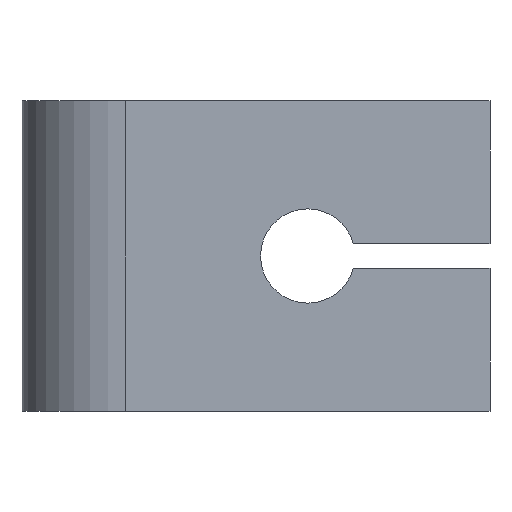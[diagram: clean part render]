
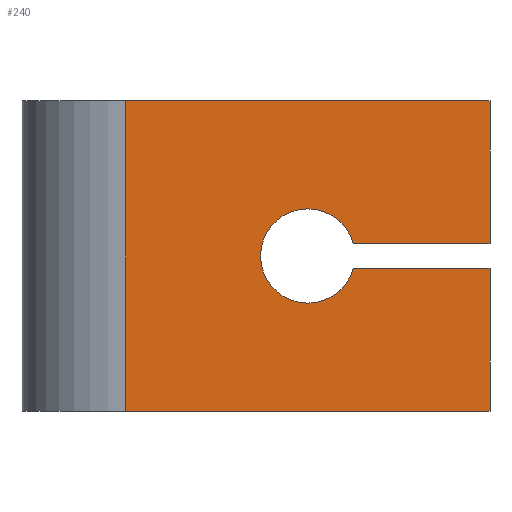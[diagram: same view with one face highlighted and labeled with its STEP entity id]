
A CAD part, left-side view. The second image highlights one B-rep face of the part: STEP entity #240.
In plain terms, the highlighted planar face has unit normal (-1, 0, 0).
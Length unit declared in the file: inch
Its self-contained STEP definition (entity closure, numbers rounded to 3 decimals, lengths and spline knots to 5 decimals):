
#8 = CARTESIAN_POINT ( 'NONE',  ( -1.82692, 0.66115, 0.4889 ) ) ;
#14 = CARTESIAN_POINT ( 'NONE',  ( -1.82692, 0.55128, 0.345 ) ) ;
#23 = DIRECTION ( 'NONE',  ( 0., -1., 0. ) ) ;
#28 = LINE ( 'NONE', #444, #359 ) ;
#36 = VERTEX_POINT ( 'NONE', #218 ) ;
#39 = VERTEX_POINT ( 'NONE', #158 ) ;
#41 = DIRECTION ( 'NONE',  ( 1., 0., 0. ) ) ;
#53 = VECTOR ( 'NONE', #70, 39.37008 ) ;
#55 = FACE_OUTER_BOUND ( 'NONE', #65, .T. ) ;
#59 = CARTESIAN_POINT ( 'NONE',  ( -1.82692, 0.22115, 0.345 ) ) ;
#65 = EDGE_LOOP ( 'NONE', ( #91, #590, #599, #423, #74, #251, #103, #232, #651, #327 ) ) ;
#70 = DIRECTION ( 'NONE',  ( 0., -1., 0. ) ) ;
#74 = ORIENTED_EDGE ( 'NONE', *, *, #178, .F. ) ;
#75 = DIRECTION ( 'NONE',  ( 1., 0., 0. ) ) ;
#77 = LINE ( 'NONE', #576, #489 ) ;
#84 = LINE ( 'NONE', #197, #53 ) ;
#91 = ORIENTED_EDGE ( 'NONE', *, *, #220, .T. ) ;
#101 = DIRECTION ( 'NONE',  ( 0., 0., -1. ) ) ;
#103 = ORIENTED_EDGE ( 'NONE', *, *, #201, .T. ) ;
#112 = DIRECTION ( 'NONE',  ( 0., 1., 0. ) ) ;
#128 = DIRECTION ( 'NONE',  ( 0., 1., 0. ) ) ;
#133 = DIRECTION ( 'NONE',  ( 1., 0., 0. ) ) ;
#147 = VECTOR ( 'NONE', #112, 39.37008 ) ;
#158 = CARTESIAN_POINT ( 'NONE',  ( -1.82692, 1.10115, 0.75 ) ) ;
#159 = VERTEX_POINT ( 'NONE', #225 ) ;
#160 = EDGE_CURVE ( 'NONE', #490, #471, #280, .T. ) ;
#178 = EDGE_CURVE ( 'NONE', #626, #329, #295, .T. ) ;
#197 = CARTESIAN_POINT ( 'NONE',  ( -1.82692, 1.10115, 0. ) ) ;
#201 = EDGE_CURVE ( 'NONE', #39, #36, #77, .T. ) ;
#218 = CARTESIAN_POINT ( 'NONE',  ( -1.82692, 1.10115, 0. ) ) ;
#220 = EDGE_CURVE ( 'NONE', #343, #490, #367, .T. ) ;
#225 = CARTESIAN_POINT ( 'NONE',  ( -1.82692, 0.22115, 0.345 ) ) ;
#232 = ORIENTED_EDGE ( 'NONE', *, *, #644, .T. ) ;
#235 = AXIS2_PLACEMENT_3D ( 'NONE', #642, #133, #272 ) ;
#240 = ADVANCED_FACE ( 'NONE', ( #55 ), #266, .F. ) ;
#251 = ORIENTED_EDGE ( 'NONE', *, *, #597, .F. ) ;
#266 = PLANE ( 'NONE',  #311 ) ;
#272 = DIRECTION ( 'NONE',  ( 0., 0., -1. ) ) ;
#279 = EDGE_CURVE ( 'NONE', #536, #329, #660, .T. ) ;
#280 = CIRCLE ( 'NONE', #235, 0.1139 ) ;
#285 = CARTESIAN_POINT ( 'NONE',  ( -1.82692, 0.22115, 0.75 ) ) ;
#295 = LINE ( 'NONE', #285, #460 ) ;
#301 = AXIS2_PLACEMENT_3D ( 'NONE', #331, #41, #101 ) ;
#311 = AXIS2_PLACEMENT_3D ( 'NONE', #616, #528, #128 ) ;
#317 = CARTESIAN_POINT ( 'NONE',  ( -1.82692, 0.66115, 0.375 ) ) ;
#327 = ORIENTED_EDGE ( 'NONE', *, *, #405, .T. ) ;
#329 = VERTEX_POINT ( 'NONE', #665 ) ;
#331 = CARTESIAN_POINT ( 'NONE',  ( -1.82692, 0.66115, 0.375 ) ) ;
#337 = DIRECTION ( 'NONE',  ( 0., 0., -1. ) ) ;
#343 = VERTEX_POINT ( 'NONE', #14 ) ;
#349 = AXIS2_PLACEMENT_3D ( 'NONE', #317, #75, #591 ) ;
#359 = VECTOR ( 'NONE', #513, 39.37008 ) ;
#367 = CIRCLE ( 'NONE', #301, 0.1139 ) ;
#405 = EDGE_CURVE ( 'NONE', #159, #343, #475, .T. ) ;
#423 = ORIENTED_EDGE ( 'NONE', *, *, #279, .T. ) ;
#444 = CARTESIAN_POINT ( 'NONE',  ( -1.82692, 0.22115, 0.75 ) ) ;
#456 = EDGE_CURVE ( 'NONE', #471, #536, #478, .T. ) ;
#460 = VECTOR ( 'NONE', #337, 39.37008 ) ;
#463 = EDGE_CURVE ( 'NONE', #159, #640, #28, .T. ) ;
#471 = VERTEX_POINT ( 'NONE', #8 ) ;
#473 = CARTESIAN_POINT ( 'NONE',  ( -1.82692, 0.66115, 0.2611 ) ) ;
#474 = CARTESIAN_POINT ( 'NONE',  ( -1.82692, 0.22115, 0.75 ) ) ;
#475 = LINE ( 'NONE', #59, #147 ) ;
#478 = CIRCLE ( 'NONE', #349, 0.1139 ) ;
#489 = VECTOR ( 'NONE', #598, 39.37008 ) ;
#490 = VERTEX_POINT ( 'NONE', #473 ) ;
#501 = VECTOR ( 'NONE', #23, 39.37008 ) ;
#513 = DIRECTION ( 'NONE',  ( 0., 0., -1. ) ) ;
#514 = LINE ( 'NONE', #635, #501 ) ;
#528 = DIRECTION ( 'NONE',  ( 1., 0., 0. ) ) ;
#535 = CARTESIAN_POINT ( 'NONE',  ( -1.82692, 0.22115, 0.405 ) ) ;
#536 = VERTEX_POINT ( 'NONE', #588 ) ;
#563 = DIRECTION ( 'NONE',  ( 0., -1., 0. ) ) ;
#576 = CARTESIAN_POINT ( 'NONE',  ( -1.82692, 1.10115, 0.75 ) ) ;
#588 = CARTESIAN_POINT ( 'NONE',  ( -1.82692, 0.55128, 0.405 ) ) ;
#590 = ORIENTED_EDGE ( 'NONE', *, *, #160, .T. ) ;
#591 = DIRECTION ( 'NONE',  ( 0., 0., -1. ) ) ;
#594 = VECTOR ( 'NONE', #563, 39.37008 ) ;
#597 = EDGE_CURVE ( 'NONE', #39, #626, #514, .T. ) ;
#598 = DIRECTION ( 'NONE',  ( 0., 0., -1. ) ) ;
#599 = ORIENTED_EDGE ( 'NONE', *, *, #456, .T. ) ;
#616 = CARTESIAN_POINT ( 'NONE',  ( -1.82692, 1.10115, 0.75 ) ) ;
#626 = VERTEX_POINT ( 'NONE', #474 ) ;
#635 = CARTESIAN_POINT ( 'NONE',  ( -1.82692, 1.10115, 0.75 ) ) ;
#640 = VERTEX_POINT ( 'NONE', #657 ) ;
#642 = CARTESIAN_POINT ( 'NONE',  ( -1.82692, 0.66115, 0.375 ) ) ;
#644 = EDGE_CURVE ( 'NONE', #36, #640, #84, .T. ) ;
#651 = ORIENTED_EDGE ( 'NONE', *, *, #463, .F. ) ;
#657 = CARTESIAN_POINT ( 'NONE',  ( -1.82692, 0.22115, 0. ) ) ;
#660 = LINE ( 'NONE', #535, #594 ) ;
#665 = CARTESIAN_POINT ( 'NONE',  ( -1.82692, 0.22115, 0.405 ) ) ;
